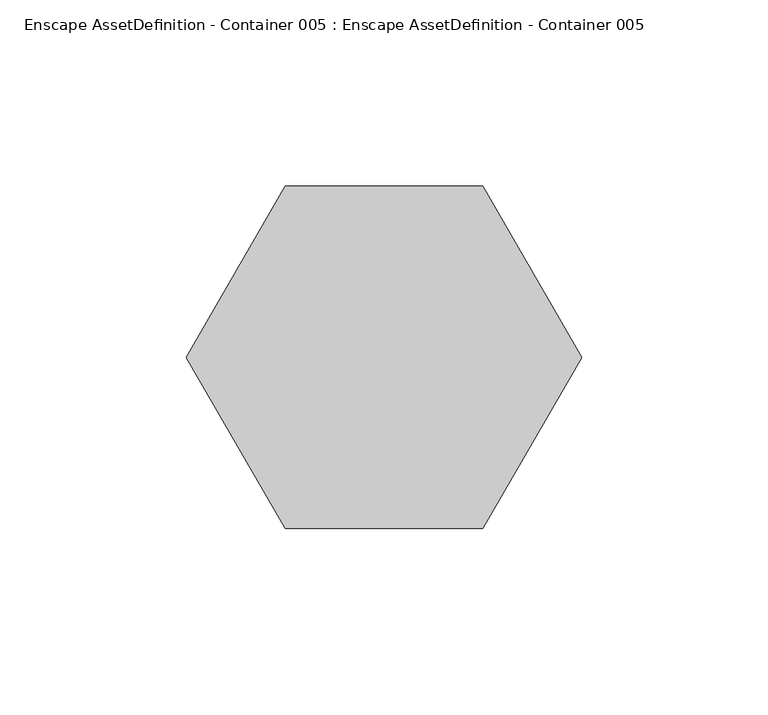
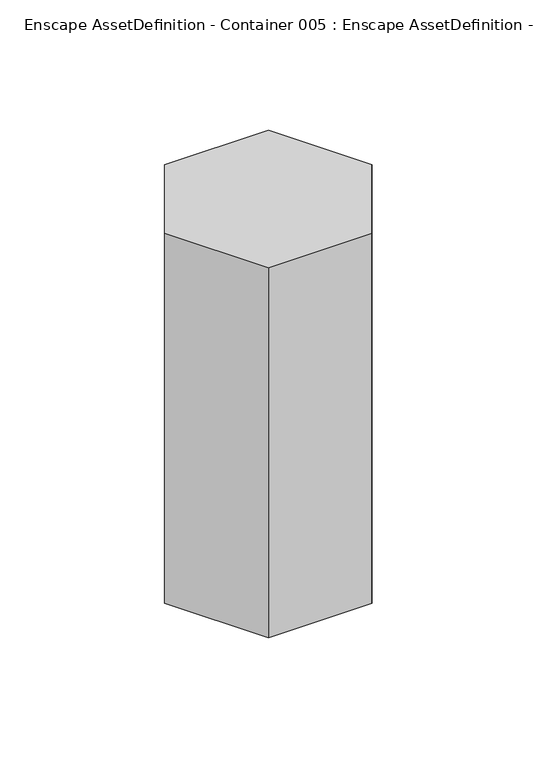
"""IFC4 building model written with IfcOpenShell, lengths in millimetres: geographic element geometry, Enscape AssetDefinition - Container 005 : Enscape AssetDefinition - Container 005."""

from ifc_helpers import new_model, si_unit, origin, place, context, project, spatial, triangles, source, transform, mapped, element, save


def enscape_assetdefinition_container_005_enscape_2921bdb9(model_context):
    return source(origin(), model_context, "Body", "Tessellation", [
        triangles([(-26.5182283, -45.9284511, 0.0), (53.051304, 0.0108852, 0.0), (26.528125, 45.9502203, 199.9999834), (53.051304, 0.0108852, 199.9999834), (-26.5182283, 45.9502203, 199.9999834), (26.528125, -45.9284511, 199.9999834), (26.528125, 45.9502203, 0.0), (-26.5182283, 45.9502203, 0.0), (-53.0414072, 0.0108852, 0.0), (-53.0414072, 0.0108852, 199.9999834), (-26.5182283, -45.9284511, 199.9999834), (26.528125, -45.9284511, 0.0)], [[4, 5, 11], [5, 10, 11], [4, 3, 5], [12, 2, 4], [1, 12, 6], [9, 1, 11], [8, 9, 10], [7, 8, 5], [2, 7, 3], [1, 8, 2], [8, 7, 2], [1, 9, 8], [6, 4, 11], [12, 4, 6], [1, 6, 11], [9, 11, 10], [8, 10, 5], [7, 5, 3], [2, 3, 4], [12, 1, 2]]),
    ])


if __name__ == "__main__":
    model = new_model("IFC4")
    model_context = context("Model", 3, world=origin())
    ifc_project = project(units=[si_unit("LENGTHUNIT", "METRE", prefix="MILLI")], contexts=[model_context])
    site = spatial("IfcSite", under=ifc_project)
    building = spatial("IfcBuilding", under=site)
    placement = place(None, origin())
    enscape_assetdefinition_container_005_enscape_shape = enscape_assetdefinition_container_005_enscape_2921bdb9(model_context)
    element("IfcGeographicElement", 1, ObjectType="Enscape AssetDefinition - Container 005 : Enscape AssetDefinition - Container 005", at=placement, inside=building, context=model_context, shape_type="MappedRepresentation", body=[
        mapped(enscape_assetdefinition_container_005_enscape_shape, transform((0.0, 0.0, 0.0), x_axis=(1.0, 0.0, 0.0), y_axis=(0.0, 1.0, 0.0), z_axis=(0.0, 0.0, 1.0))),
    ])
    save(model, "model.ifc")
